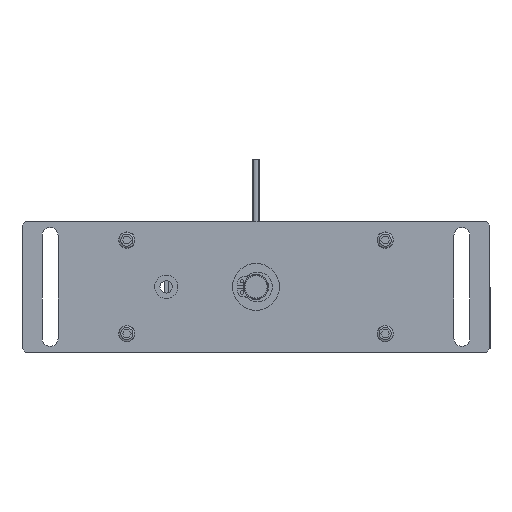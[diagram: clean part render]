
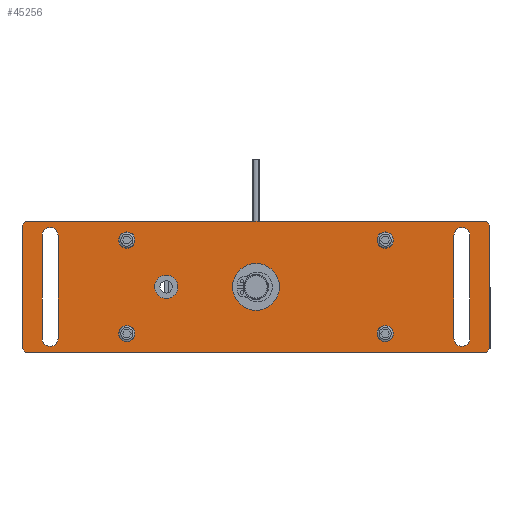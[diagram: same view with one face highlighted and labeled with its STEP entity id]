
A CAD part, front view. The second image highlights one B-rep face of the part: STEP entity #45256.
In plain terms, the highlighted planar face has unit normal (0, -1, 0) as drawn and (0, 0, 1) by its records, which use the part's own axes.
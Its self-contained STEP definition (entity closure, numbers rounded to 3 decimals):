
#1527=PLANE('',#59684);
#6161=LINE('',#86796,#10641);
#6167=LINE('',#86810,#10647);
#6171=LINE('',#86819,#10651);
#6173=LINE('',#86823,#10653);
#6185=LINE('',#86868,#10665);
#6186=LINE('',#86872,#10666);
#6187=LINE('',#86876,#10667);
#6188=LINE('',#86880,#10668);
#6189=LINE('',#86893,#10669);
#6190=LINE('',#86894,#10670);
#6191=LINE('',#86895,#10671);
#6192=LINE('',#86896,#10672);
#10641=VECTOR('',#72571,1000.);
#10647=VECTOR('',#72579,1000.);
#10651=VECTOR('',#72585,1000.);
#10653=VECTOR('',#72589,1000.);
#10665=VECTOR('',#72627,1000.);
#10666=VECTOR('',#72630,1000.);
#10667=VECTOR('',#72633,1000.);
#10668=VECTOR('',#72636,1000.);
#10669=VECTOR('',#72649,1000.);
#10670=VECTOR('',#72650,1000.);
#10671=VECTOR('',#72651,1000.);
#10672=VECTOR('',#72652,1000.);
#23869=ORIENTED_EDGE('',*,*,#30712,.F.);
#23870=ORIENTED_EDGE('',*,*,#30713,.F.);
#23871=ORIENTED_EDGE('',*,*,#30714,.F.);
#23872=ORIENTED_EDGE('',*,*,#30715,.F.);
#23873=ORIENTED_EDGE('',*,*,#30716,.F.);
#23874=ORIENTED_EDGE('',*,*,#30717,.F.);
#23875=ORIENTED_EDGE('',*,*,#30718,.F.);
#23876=ORIENTED_EDGE('',*,*,#30719,.F.);
#23877=ORIENTED_EDGE('',*,*,#30720,.T.);
#23878=ORIENTED_EDGE('',*,*,#30721,.T.);
#23879=ORIENTED_EDGE('',*,*,#30722,.T.);
#23880=ORIENTED_EDGE('',*,*,#30723,.T.);
#23881=ORIENTED_EDGE('',*,*,#30724,.T.);
#23882=ORIENTED_EDGE('',*,*,#30725,.T.);
#23883=ORIENTED_EDGE('',*,*,#30688,.T.);
#23884=ORIENTED_EDGE('',*,*,#30726,.T.);
#23885=ORIENTED_EDGE('',*,*,#30690,.T.);
#23886=ORIENTED_EDGE('',*,*,#30727,.T.);
#23887=ORIENTED_EDGE('',*,*,#30678,.T.);
#23888=ORIENTED_EDGE('',*,*,#30728,.T.);
#23889=ORIENTED_EDGE('',*,*,#30684,.T.);
#23890=ORIENTED_EDGE('',*,*,#30729,.T.);
#30678=EDGE_CURVE('',#35216,#35217,#6161,.T.);
#30684=EDGE_CURVE('',#35223,#35222,#6167,.T.);
#30688=EDGE_CURVE('',#35227,#35226,#6171,.T.);
#30690=EDGE_CURVE('',#35228,#35229,#6173,.T.);
#30712=EDGE_CURVE('',#35246,#35247,#37152,.T.);
#30713=EDGE_CURVE('',#35248,#35246,#6185,.T.);
#30714=EDGE_CURVE('',#35249,#35248,#37153,.T.);
#30715=EDGE_CURVE('',#35247,#35249,#6186,.T.);
#30716=EDGE_CURVE('',#35250,#35251,#37154,.T.);
#30717=EDGE_CURVE('',#35252,#35250,#6187,.T.);
#30718=EDGE_CURVE('',#35253,#35252,#37155,.T.);
#30719=EDGE_CURVE('',#35251,#35253,#6188,.T.);
#30720=EDGE_CURVE('',#35254,#35254,#37156,.T.);
#30721=EDGE_CURVE('',#35255,#35255,#37157,.T.);
#30722=EDGE_CURVE('',#35256,#35256,#37158,.T.);
#30723=EDGE_CURVE('',#35257,#35257,#37159,.T.);
#30724=EDGE_CURVE('',#35258,#35258,#37160,.T.);
#30725=EDGE_CURVE('',#35259,#35259,#37161,.T.);
#30726=EDGE_CURVE('',#35226,#35228,#6189,.F.);
#30727=EDGE_CURVE('',#35229,#35216,#6190,.F.);
#30728=EDGE_CURVE('',#35217,#35223,#6191,.F.);
#30729=EDGE_CURVE('',#35222,#35227,#6192,.F.);
#35216=VERTEX_POINT('',#86797);
#35217=VERTEX_POINT('',#86798);
#35222=VERTEX_POINT('',#86809);
#35223=VERTEX_POINT('',#86811);
#35226=VERTEX_POINT('',#86818);
#35227=VERTEX_POINT('',#86820);
#35228=VERTEX_POINT('',#86824);
#35229=VERTEX_POINT('',#86825);
#35246=VERTEX_POINT('',#86866);
#35247=VERTEX_POINT('',#86867);
#35248=VERTEX_POINT('',#86869);
#35249=VERTEX_POINT('',#86871);
#35250=VERTEX_POINT('',#86874);
#35251=VERTEX_POINT('',#86875);
#35252=VERTEX_POINT('',#86877);
#35253=VERTEX_POINT('',#86879);
#35254=VERTEX_POINT('',#86882);
#35255=VERTEX_POINT('',#86884);
#35256=VERTEX_POINT('',#86886);
#35257=VERTEX_POINT('',#86888);
#35258=VERTEX_POINT('',#86890);
#35259=VERTEX_POINT('',#86892);
#37152=CIRCLE('',#59685,4.25);
#37153=CIRCLE('',#59686,4.25);
#37154=CIRCLE('',#59687,4.25);
#37155=CIRCLE('',#59688,4.25);
#37156=CIRCLE('',#59689,6.25);
#37157=CIRCLE('',#59690,12.5);
#37158=CIRCLE('',#59691,4.35);
#37159=CIRCLE('',#59692,4.35);
#37160=CIRCLE('',#59693,4.35);
#37161=CIRCLE('',#59694,4.35);
#39514=EDGE_LOOP('',(#23869,#23870,#23871,#23872));
#39515=EDGE_LOOP('',(#23873,#23874,#23875,#23876));
#39516=EDGE_LOOP('',(#23877));
#39517=EDGE_LOOP('',(#23878));
#39518=EDGE_LOOP('',(#23879));
#39519=EDGE_LOOP('',(#23880));
#39520=EDGE_LOOP('',(#23881));
#39521=EDGE_LOOP('',(#23882));
#39522=EDGE_LOOP('',(#23883,#23884,#23885,#23886,#23887,#23888,#23889,#23890));
#41931=FACE_BOUND('',#39514,.T.);
#41932=FACE_BOUND('',#39515,.T.);
#41933=FACE_BOUND('',#39516,.T.);
#41934=FACE_BOUND('',#39517,.T.);
#41935=FACE_BOUND('',#39518,.T.);
#41936=FACE_BOUND('',#39519,.T.);
#41937=FACE_BOUND('',#39520,.T.);
#41938=FACE_BOUND('',#39521,.T.);
#41939=FACE_BOUND('',#39522,.T.);
#45256=ADVANCED_FACE('',(#41931,#41932,#41933,#41934,#41935,#41936,#41937,
#41938,#41939),#1527,.T.);
#59684=AXIS2_PLACEMENT_3D('',#86864,#72623,#72624);
#59685=AXIS2_PLACEMENT_3D('',#86865,#72625,#72626);
#59686=AXIS2_PLACEMENT_3D('',#86870,#72628,#72629);
#59687=AXIS2_PLACEMENT_3D('',#86873,#72631,#72632);
#59688=AXIS2_PLACEMENT_3D('',#86878,#72634,#72635);
#59689=AXIS2_PLACEMENT_3D('',#86881,#72637,#72638);
#59690=AXIS2_PLACEMENT_3D('',#86883,#72639,#72640);
#59691=AXIS2_PLACEMENT_3D('',#86885,#72641,#72642);
#59692=AXIS2_PLACEMENT_3D('',#86887,#72643,#72644);
#59693=AXIS2_PLACEMENT_3D('',#86889,#72645,#72646);
#59694=AXIS2_PLACEMENT_3D('',#86891,#72647,#72648);
#72571=DIRECTION('',(0.,-1.,0.));
#72579=DIRECTION('',(1.,0.,0.));
#72585=DIRECTION('',(0.,1.,0.));
#72589=DIRECTION('',(-1.,0.,0.));
#72623=DIRECTION('',(0.,0.,1.));
#72624=DIRECTION('',(1.,0.,0.));
#72625=DIRECTION('',(0.,0.,1.));
#72626=DIRECTION('',(0.,-1.,0.));
#72627=DIRECTION('',(0.,1.,0.));
#72628=DIRECTION('',(0.,0.,1.));
#72629=DIRECTION('',(-1.,0.,0.));
#72630=DIRECTION('',(0.,-1.,0.));
#72631=DIRECTION('',(0.,0.,1.));
#72632=DIRECTION('',(0.,-1.,0.));
#72633=DIRECTION('',(0.,1.,0.));
#72634=DIRECTION('',(0.,0.,1.));
#72635=DIRECTION('',(-1.,0.,0.));
#72636=DIRECTION('',(0.,-1.,0.));
#72637=DIRECTION('',(0.,0.,-1.));
#72638=DIRECTION('',(0.,-1.,0.));
#72639=DIRECTION('',(0.,0.,-1.));
#72640=DIRECTION('',(0.,-1.,0.));
#72641=DIRECTION('',(0.,0.,-1.));
#72642=DIRECTION('',(0.,-1.,0.));
#72643=DIRECTION('',(0.,0.,-1.));
#72644=DIRECTION('',(0.,-1.,0.));
#72645=DIRECTION('',(0.,0.,-1.));
#72646=DIRECTION('',(0.,-1.,0.));
#72647=DIRECTION('',(0.,0.,-1.));
#72648=DIRECTION('',(0.,-1.,0.));
#72649=DIRECTION('',(0.707,-0.707,0.));
#72650=DIRECTION('',(0.707,0.707,0.));
#72651=DIRECTION('',(-0.707,0.707,0.));
#72652=DIRECTION('',(-0.707,-0.707,0.));
#86796=CARTESIAN_POINT('',(-125.,35.,0.));
#86797=CARTESIAN_POINT('',(-125.,33.,0.));
#86798=CARTESIAN_POINT('',(-125.,-33.,0.));
#86809=CARTESIAN_POINT('',(123.,-35.,0.));
#86810=CARTESIAN_POINT('',(-125.,-35.,0.));
#86811=CARTESIAN_POINT('',(-123.,-35.,0.));
#86818=CARTESIAN_POINT('',(125.,33.,0.));
#86819=CARTESIAN_POINT('',(125.,-35.,0.));
#86820=CARTESIAN_POINT('',(125.,-33.,0.));
#86823=CARTESIAN_POINT('',(125.,35.,0.));
#86824=CARTESIAN_POINT('',(123.,35.,0.));
#86825=CARTESIAN_POINT('',(-123.,35.,0.));
#86864=CARTESIAN_POINT('',(-125.,-35.,0.));
#86865=CARTESIAN_POINT('',(110.,27.5,0.));
#86866=CARTESIAN_POINT('',(114.25,27.5,0.));
#86867=CARTESIAN_POINT('',(105.75,27.5,0.));
#86868=CARTESIAN_POINT('',(114.25,-27.5,0.));
#86869=CARTESIAN_POINT('',(114.25,-27.5,0.));
#86870=CARTESIAN_POINT('',(110.,-27.5,0.));
#86871=CARTESIAN_POINT('',(105.75,-27.5,0.));
#86872=CARTESIAN_POINT('',(105.75,27.5,0.));
#86873=CARTESIAN_POINT('',(-110.,27.5,0.));
#86874=CARTESIAN_POINT('',(-105.75,27.5,0.));
#86875=CARTESIAN_POINT('',(-114.25,27.5,0.));
#86876=CARTESIAN_POINT('',(-105.75,-27.5,0.));
#86877=CARTESIAN_POINT('',(-105.75,-27.5,0.));
#86878=CARTESIAN_POINT('',(-110.,-27.5,0.));
#86879=CARTESIAN_POINT('',(-114.25,-27.5,0.));
#86880=CARTESIAN_POINT('',(-114.25,27.5,0.));
#86881=CARTESIAN_POINT('',(-48.,0.,0.));
#86882=CARTESIAN_POINT('',(-48.,-6.25,0.));
#86883=CARTESIAN_POINT('',(0.,0.,0.));
#86884=CARTESIAN_POINT('',(0.,-12.5,0.));
#86885=CARTESIAN_POINT('',(-69.,-25.,0.));
#86886=CARTESIAN_POINT('',(-69.,-29.35,0.));
#86887=CARTESIAN_POINT('',(69.,-25.,0.));
#86888=CARTESIAN_POINT('',(69.,-29.35,0.));
#86889=CARTESIAN_POINT('',(69.,25.,0.));
#86890=CARTESIAN_POINT('',(69.,20.65,0.));
#86891=CARTESIAN_POINT('',(-69.,25.,0.));
#86892=CARTESIAN_POINT('',(-69.,20.65,0.));
#86893=CARTESIAN_POINT('',(34.,124.,0.));
#86894=CARTESIAN_POINT('',(-159.,-1.,0.));
#86895=CARTESIAN_POINT('',(-124.,-34.,0.));
#86896=CARTESIAN_POINT('',(-1.,-159.,0.));
